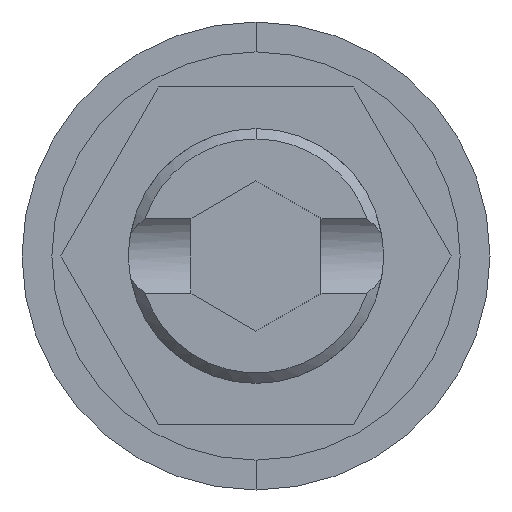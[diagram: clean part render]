
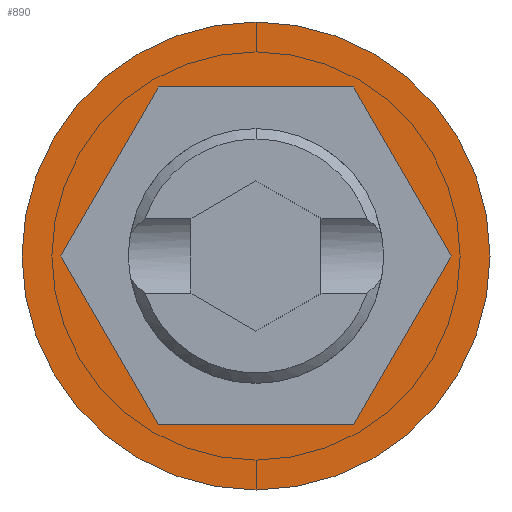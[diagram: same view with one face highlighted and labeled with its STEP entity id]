
A CAD part, front view. The second image highlights one B-rep face of the part: STEP entity #890.
In plain terms, the highlighted planar face has unit normal (0, -1, 0).
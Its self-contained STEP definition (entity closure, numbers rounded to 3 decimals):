
#45 = CARTESIAN_POINT ( 'NONE',  ( 3.753, 0., 0. ) ) ;
#135 = DIRECTION ( 'NONE',  ( -0.5, 0., -0.866 ) ) ;
#186 = CARTESIAN_POINT ( 'NONE',  ( 0., 0., 0. ) ) ;
#215 = CARTESIAN_POINT ( 'NONE',  ( 0., 0., 0. ) ) ;
#222 = PLANE ( 'NONE',  #1412 ) ;
#231 = VECTOR ( 'NONE', #135, 1000. ) ;
#284 = VERTEX_POINT ( 'NONE', #886 ) ;
#312 = DIRECTION ( 'NONE',  ( 0., -1., 0. ) ) ;
#335 = VECTOR ( 'NONE', #1216, 1000. ) ;
#355 = DIRECTION ( 'NONE',  ( 0., 0., -1. ) ) ;
#375 = CARTESIAN_POINT ( 'NONE',  ( -1.876, 0., -3.25 ) ) ;
#434 = VERTEX_POINT ( 'NONE', #1133 ) ;
#440 = CARTESIAN_POINT ( 'NONE',  ( -1.876, 0., 3.25 ) ) ;
#501 = EDGE_CURVE ( 'NONE', #2021, #284, #733, .T. ) ;
#575 = CIRCLE ( 'NONE', #1481, 4.5 ) ;
#647 = CIRCLE ( 'NONE', #1497, 4.5 ) ;
#655 = EDGE_CURVE ( 'NONE', #434, #1002, #1942, .T. ) ;
#665 = VERTEX_POINT ( 'NONE', #2141 ) ;
#706 = CARTESIAN_POINT ( 'NONE',  ( 0., 0., 4.5 ) ) ;
#733 = LINE ( 'NONE', #2031, #1571 ) ;
#752 = EDGE_CURVE ( 'NONE', #1896, #2021, #1673, .T. ) ;
#823 = EDGE_CURVE ( 'NONE', #1002, #1620, #1141, .T. ) ;
#858 = ORIENTED_EDGE ( 'NONE', *, *, #1188, .T. ) ;
#886 = CARTESIAN_POINT ( 'NONE',  ( 3.753, 0., 0. ) ) ;
#890 = ADVANCED_FACE ( 'NONE', ( #1422, #1846 ), #222, .T. ) ;
#1002 = VERTEX_POINT ( 'NONE', #440 ) ;
#1022 = DIRECTION ( 'NONE',  ( 0.5, 0., -0.866 ) ) ;
#1057 = ORIENTED_EDGE ( 'NONE', *, *, #752, .F. ) ;
#1063 = ORIENTED_EDGE ( 'NONE', *, *, #655, .F. ) ;
#1098 = ORIENTED_EDGE ( 'NONE', *, *, #823, .F. ) ;
#1133 = CARTESIAN_POINT ( 'NONE',  ( 1.876, 0., 3.25 ) ) ;
#1141 = LINE ( 'NONE', #1815, #231 ) ;
#1167 = ORIENTED_EDGE ( 'NONE', *, *, #2091, .F. ) ;
#1178 = DIRECTION ( 'NONE',  ( 0., 0., -1. ) ) ;
#1188 = EDGE_CURVE ( 'NONE', #1607, #665, #575, .T. ) ;
#1216 = DIRECTION ( 'NONE',  ( 1., 0., 0. ) ) ;
#1234 = VECTOR ( 'NONE', #1870, 1000. ) ;
#1301 = CARTESIAN_POINT ( 'NONE',  ( 1.876, 0., 3.25 ) ) ;
#1310 = DIRECTION ( 'NONE',  ( -1., 0., 0. ) ) ;
#1331 = CARTESIAN_POINT ( 'NONE',  ( 0., 0., 0. ) ) ;
#1351 = CARTESIAN_POINT ( 'NONE',  ( -3.753, 0., 0. ) ) ;
#1366 = ORIENTED_EDGE ( 'NONE', *, *, #1664, .F. ) ;
#1376 = DIRECTION ( 'NONE',  ( 0., -1., 0. ) ) ;
#1409 = DIRECTION ( 'NONE',  ( 0.5, 0., 0.866 ) ) ;
#1412 = AXIS2_PLACEMENT_3D ( 'NONE', #215, #1564, #1178 ) ;
#1422 = FACE_BOUND ( 'NONE', #1546, .T. ) ;
#1481 = AXIS2_PLACEMENT_3D ( 'NONE', #186, #1376, #355 ) ;
#1486 = DIRECTION ( 'NONE',  ( 0., 0., -1. ) ) ;
#1497 = AXIS2_PLACEMENT_3D ( 'NONE', #1331, #312, #1486 ) ;
#1546 = EDGE_LOOP ( 'NONE', ( #1057, #1167, #1098, #1063, #1366, #1583 ) ) ;
#1564 = DIRECTION ( 'NONE',  ( 0., -1., 0. ) ) ;
#1571 = VECTOR ( 'NONE', #1409, 1000. ) ;
#1583 = ORIENTED_EDGE ( 'NONE', *, *, #501, .F. ) ;
#1607 = VERTEX_POINT ( 'NONE', #706 ) ;
#1617 = LINE ( 'NONE', #45, #1234 ) ;
#1620 = VERTEX_POINT ( 'NONE', #2036 ) ;
#1623 = ORIENTED_EDGE ( 'NONE', *, *, #1974, .T. ) ;
#1659 = CARTESIAN_POINT ( 'NONE',  ( 1.876, 0., -3.25 ) ) ;
#1662 = VECTOR ( 'NONE', #1022, 1000. ) ;
#1664 = EDGE_CURVE ( 'NONE', #284, #434, #1617, .T. ) ;
#1673 = LINE ( 'NONE', #375, #335 ) ;
#1708 = LINE ( 'NONE', #1351, #1662 ) ;
#1815 = CARTESIAN_POINT ( 'NONE',  ( -1.876, 0., 3.25 ) ) ;
#1846 = FACE_OUTER_BOUND ( 'NONE', #2087, .T. ) ;
#1870 = DIRECTION ( 'NONE',  ( -0.5, 0., 0.866 ) ) ;
#1878 = VECTOR ( 'NONE', #1310, 1000. ) ;
#1896 = VERTEX_POINT ( 'NONE', #2127 ) ;
#1942 = LINE ( 'NONE', #1301, #1878 ) ;
#1974 = EDGE_CURVE ( 'NONE', #665, #1607, #647, .T. ) ;
#2021 = VERTEX_POINT ( 'NONE', #1659 ) ;
#2031 = CARTESIAN_POINT ( 'NONE',  ( 1.876, 0., -3.25 ) ) ;
#2036 = CARTESIAN_POINT ( 'NONE',  ( -3.753, 0., 0. ) ) ;
#2087 = EDGE_LOOP ( 'NONE', ( #1623, #858 ) ) ;
#2091 = EDGE_CURVE ( 'NONE', #1620, #1896, #1708, .T. ) ;
#2127 = CARTESIAN_POINT ( 'NONE',  ( -1.876, 0., -3.25 ) ) ;
#2141 = CARTESIAN_POINT ( 'NONE',  ( 0., 0., -4.5 ) ) ;
